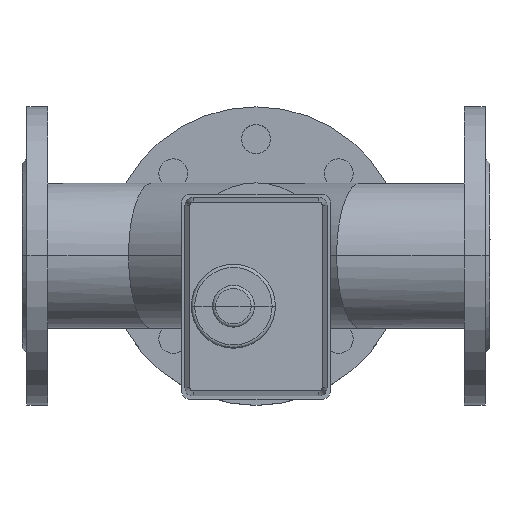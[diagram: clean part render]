
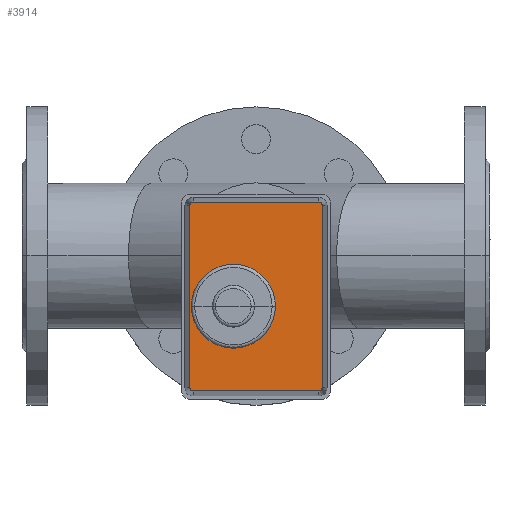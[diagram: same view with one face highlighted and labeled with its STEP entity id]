
A CAD part, top view. The second image highlights one B-rep face of the part: STEP entity #3914.
In plain terms, the highlighted planar face has unit normal (0, 0, 1).
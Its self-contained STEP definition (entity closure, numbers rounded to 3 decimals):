
#359=LINE('',#6992,#587);
#360=LINE('',#6996,#588);
#361=LINE('',#7000,#589);
#362=LINE('',#7003,#590);
#587=VECTOR('',#5468,304.8);
#588=VECTOR('',#5471,304.8);
#589=VECTOR('',#5474,304.8);
#590=VECTOR('',#5477,304.8);
#974=FACE_OUTER_BOUND('',#1244,.T.);
#1244=EDGE_LOOP('',(#3207,#3208,#3209,#3210,#3211,#3212,#3213,#3214));
#1517=CIRCLE('',#4375,2.);
#1518=CIRCLE('',#4376,2.);
#1519=CIRCLE('',#4377,2.);
#1520=CIRCLE('',#4378,2.);
#1833=VERTEX_POINT('',#6988);
#1834=VERTEX_POINT('',#6989);
#1835=VERTEX_POINT('',#6991);
#1836=VERTEX_POINT('',#6993);
#1837=VERTEX_POINT('',#6995);
#1838=VERTEX_POINT('',#6997);
#1839=VERTEX_POINT('',#6999);
#1840=VERTEX_POINT('',#7001);
#2303=EDGE_CURVE('',#1833,#1834,#1517,.T.);
#2304=EDGE_CURVE('',#1834,#1835,#359,.T.);
#2305=EDGE_CURVE('',#1835,#1836,#1518,.T.);
#2306=EDGE_CURVE('',#1836,#1837,#360,.T.);
#2307=EDGE_CURVE('',#1837,#1838,#1519,.T.);
#2308=EDGE_CURVE('',#1838,#1839,#361,.T.);
#2309=EDGE_CURVE('',#1839,#1840,#1520,.T.);
#2310=EDGE_CURVE('',#1840,#1833,#362,.T.);
#3207=ORIENTED_EDGE('',*,*,#2303,.T.);
#3208=ORIENTED_EDGE('',*,*,#2304,.T.);
#3209=ORIENTED_EDGE('',*,*,#2305,.T.);
#3210=ORIENTED_EDGE('',*,*,#2306,.T.);
#3211=ORIENTED_EDGE('',*,*,#2307,.T.);
#3212=ORIENTED_EDGE('',*,*,#2308,.T.);
#3213=ORIENTED_EDGE('',*,*,#2309,.T.);
#3214=ORIENTED_EDGE('',*,*,#2310,.T.);
#3482=PLANE('',#4374);
#3914=ADVANCED_FACE('',(#974),#3482,.T.);
#4374=AXIS2_PLACEMENT_3D('',#6987,#5464,#5465);
#4375=AXIS2_PLACEMENT_3D('',#6990,#5466,#5467);
#4376=AXIS2_PLACEMENT_3D('',#6994,#5469,#5470);
#4377=AXIS2_PLACEMENT_3D('',#6998,#5472,#5473);
#4378=AXIS2_PLACEMENT_3D('',#7002,#5475,#5476);
#5464=DIRECTION('center_axis',(0.,0.,1.));
#5465=DIRECTION('ref_axis',(0.,1.,0.));
#5466=DIRECTION('center_axis',(0.,0.,1.));
#5467=DIRECTION('ref_axis',(0.,-1.,0.));
#5468=DIRECTION('',(1.,0.,0.));
#5469=DIRECTION('center_axis',(0.,0.,
1.));
#5470=DIRECTION('ref_axis',(1.,0.,0.));
#5471=DIRECTION('',(0.,1.,0.));
#5472=DIRECTION('center_axis',(0.,0.,1.));
#5473=DIRECTION('ref_axis',(0.,1.,0.));
#5474=DIRECTION('',(-1.,0.,0.));
#5475=DIRECTION('center_axis',(0.,0.,1.));
#5476=DIRECTION('ref_axis',(-1.,0.,0.));
#5477=DIRECTION('',(0.,-1.,0.));
#6987=CARTESIAN_POINT('Origin',(-26.001,0.,
297.991));
#6988=CARTESIAN_POINT('',(-84.509,-39.,297.991));
#6989=CARTESIAN_POINT('',(-82.509,-41.,297.991));
#6990=CARTESIAN_POINT('Origin',(-82.509,-39.,297.991));
#6991=CARTESIAN_POINT('',(30.508,-41.,297.991));
#6992=CARTESIAN_POINT('',(30.508,-41.,297.991));
#6993=CARTESIAN_POINT('',(32.508,-39.,297.991));
#6994=CARTESIAN_POINT('Origin',(30.508,-39.,297.991));
#6995=CARTESIAN_POINT('',(32.508,39.,297.991));
#6996=CARTESIAN_POINT('',(32.508,39.,297.991));
#6997=CARTESIAN_POINT('',(30.508,41.,297.991));
#6998=CARTESIAN_POINT('Origin',(30.508,39.,297.991));
#6999=CARTESIAN_POINT('',(-82.509,41.,297.991));
#7000=CARTESIAN_POINT('',(-82.509,41.,297.991));
#7001=CARTESIAN_POINT('',(-84.509,39.,297.991));
#7002=CARTESIAN_POINT('Origin',(-82.509,39.,297.991));
#7003=CARTESIAN_POINT('',(-84.509,-39.,297.991));
